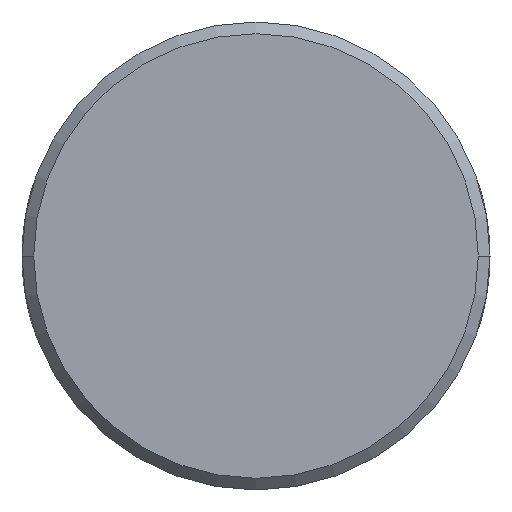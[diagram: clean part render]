
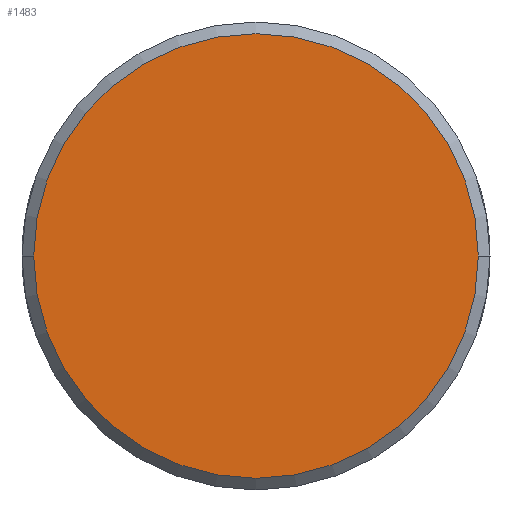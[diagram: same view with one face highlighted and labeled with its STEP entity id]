
A CAD part, front view. The second image highlights one B-rep face of the part: STEP entity #1483.
In plain terms, the highlighted planar face has unit normal (0, -1, 0).
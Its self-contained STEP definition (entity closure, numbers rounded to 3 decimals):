
#1=CARTESIAN_POINT('',(0.,-25.,0.));
#2=DIRECTION('',(0.,-1.,0.));
#3=DIRECTION('',(-1.,0.,0.));
#4=AXIS2_PLACEMENT_3D('',#1,#2,#3);
#6=CARTESIAN_POINT('',(0.,-25.,0.));
#7=DIRECTION('',(0.,-1.,0.));
#8=DIRECTION('',(1.,0.,0.));
#9=AXIS2_PLACEMENT_3D('',#6,#7,#8);
#1389=CARTESIAN_POINT('',(-5.7,-25.,0.));
#1390=CARTESIAN_POINT('',(5.7,-25.,0.));
#1391=VERTEX_POINT('',#1389);
#1392=VERTEX_POINT('',#1390);
#1472=CARTESIAN_POINT('',(0.,-25.,0.));
#1473=DIRECTION('',(0.,1.,0.));
#1474=DIRECTION('',(1.,0.,0.));
#1475=AXIS2_PLACEMENT_3D('',#1472,#1473,#1474);
#1476=PLANE('',#1475);
#1478=ORIENTED_EDGE('',*,*,#1477,.F.);
#1480=ORIENTED_EDGE('',*,*,#1479,.F.);
#1481=EDGE_LOOP('',(#1478,#1480));
#1482=FACE_OUTER_BOUND('',#1481,.F.);
#1483=ADVANCED_FACE('',(#1482),#1476,.F.);
#5=CIRCLE('',#4,5.7);
#10=CIRCLE('',#9,5.7);
#1477=EDGE_CURVE('',#1391,#1392,#5,.T.);
#1479=EDGE_CURVE('',#1392,#1391,#10,.T.);
